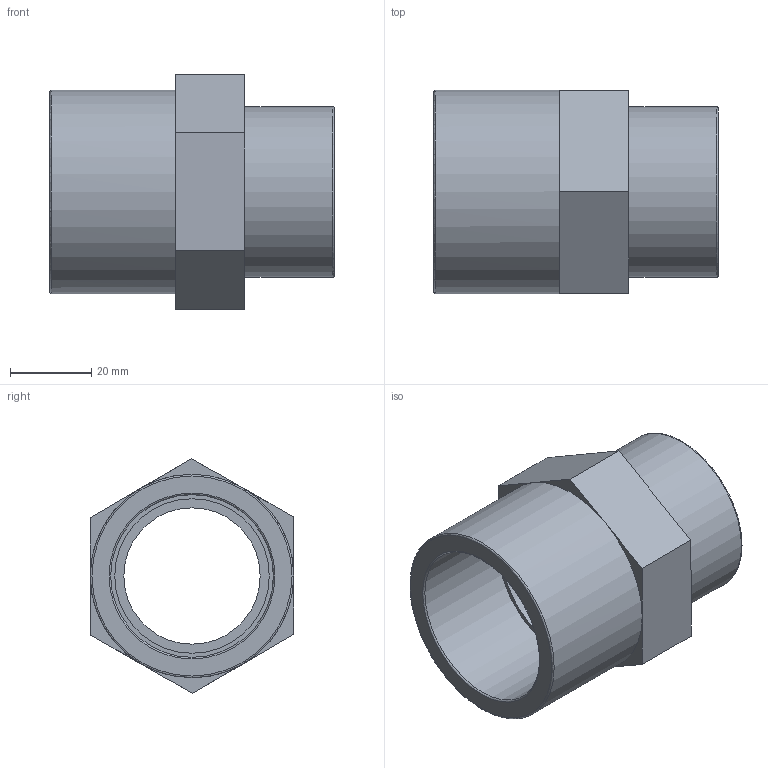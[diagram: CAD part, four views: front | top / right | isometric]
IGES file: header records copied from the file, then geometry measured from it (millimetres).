
Global section: file name: 052102040013.ipt; native system: Autodesk Inventor 2015; preprocessor: unknown; author: KIM; date: 20171207.165359; units: millimetre
Bounding box: 70 x 50.1 x 57.73 mm (x, y, z)
Volume: 52064.6 mm3; surface area: 21334.8 mm2
Topology: 1 solids, 1 shells, 26 faces, 67 edges, 46 vertices
Faces by surface type: plane 17, revolution 7, cylinder 2
Full cylindrical faces by diameter (mm): 41.91 x1, 50 x1
